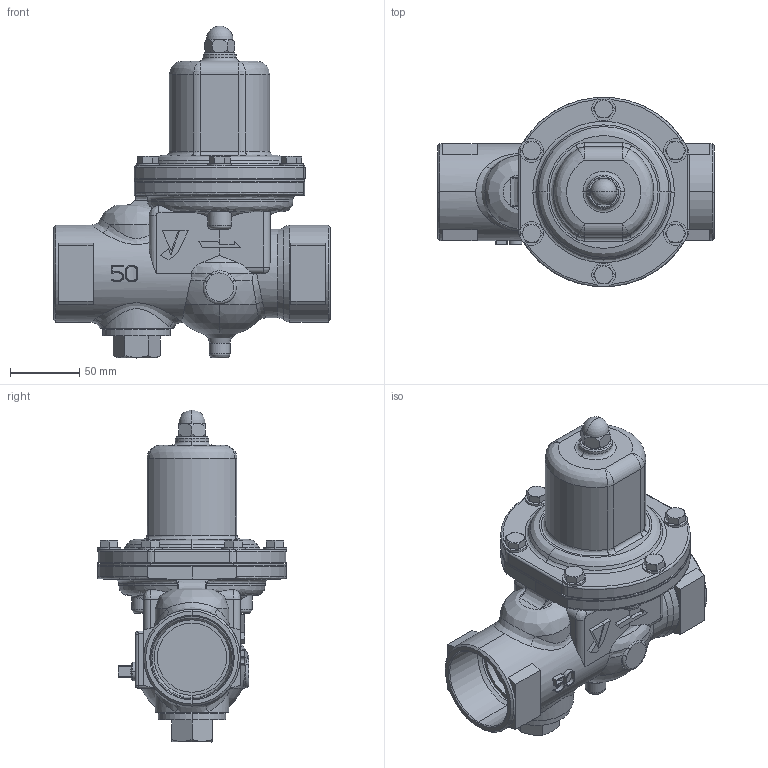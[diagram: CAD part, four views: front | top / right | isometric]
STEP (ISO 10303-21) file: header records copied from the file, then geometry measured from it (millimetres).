
FILE_DESCRIPTION( (''), '2;1');
FILE_NAME ('PC1276.13596.GD-28S-NE 50A_24253.stp','2025-06-10T15:52:37',(''),(''),'spGate 20.6.3 (****-****-****-****)','','');
FILE_SCHEMA (('AUTOMOTIVE_DESIGN'));
Length unit declared in the file: millimetre
Products named in the file (9): Assembly; ダイヤフラム　50Ａ; ストレーナキャップ　32-50A; 3D 保護筒; プラグ3D; CP_''_JIS B 1183 六角袋ナット 3形 M''_705; CP_平座金(ミ''_JIS B 1256 みがき丸 8_740; CP_''_JIS B 1180 呼び径六角ボ''_(1)_17166; GD-28S-NE  弁箱
Assembly tree (18 placements, depth 2):
  Assembly
    ダイヤフラム　50Ａ
    ストレーナキャップ　32-50A
    3D 保護筒
    プラグ3D
    CP_''_JIS B 1183 六角袋ナット 3形 M''_705
    CP_平座金(ミ''_JIS B 1256 みがき丸 8_740  x6
    CP_''_JIS B 1180 呼び径六角ボ''_(1)_17166  x6
    GD-28S-NE  弁箱
Bounding box: 200 x 137 x 240 mm (x, y, z)
Volume: 1185150.7 mm3; surface area: 218808.2 mm2
Topology: 18 solids, 18 shells, 647 faces, 1517 edges, 936 vertices
Faces by surface type: bspline 228, plane 209, cylinder 190, sphere 20
Entity records: 29497 total; most frequent: CARTESIAN_POINT 9130, ORIENTED_EDGE 2390, DIRECTION 1958, COLOUR_RGB 1700, PRESENTATION_STYLE_ASSIGNMENT 1700, STYLED_ITEM 1700, EDGE_CURVE 1195, DRAUGHTING_PRE_DEFINED_CURVE_FONT 1195
